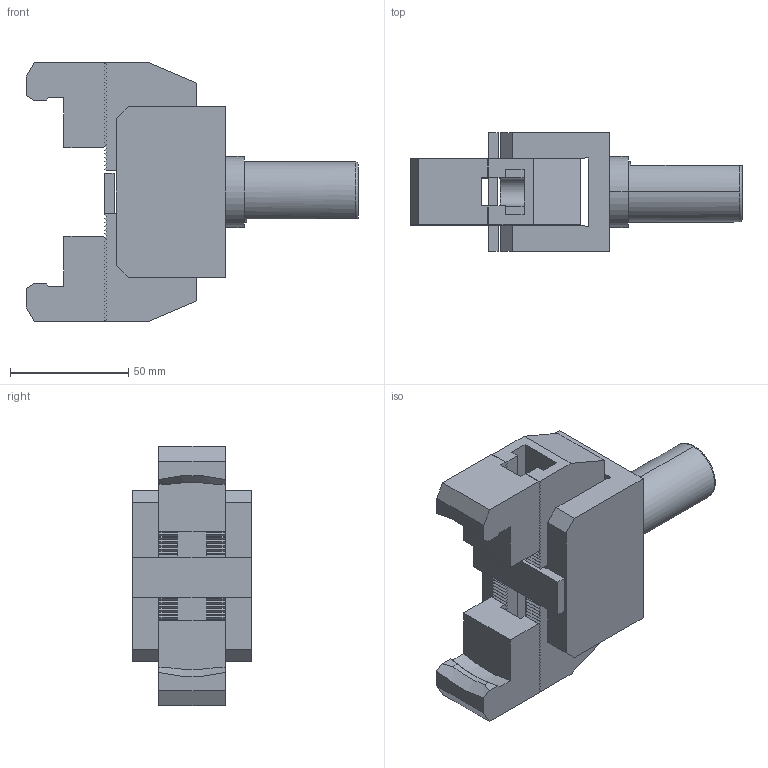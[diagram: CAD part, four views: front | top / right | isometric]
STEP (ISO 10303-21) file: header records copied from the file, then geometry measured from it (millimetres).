
FILE_DESCRIPTION (( 'STEP AP203' ), '1' );
FILE_NAME ('05-0584 LONG JAWS.STEP', '2024-02-16T21:19:52', ( '' ), ( '' ), 'SwSTEP 2.0', 'SolidWorks 2022', '' );
FILE_SCHEMA (( 'CONFIG_CONTROL_DESIGN' ));
Length unit declared in the file: inch
Products named in the file (7): BP 25.4C_5; BP 25.4C; 05-0584 LONG JAWS; BP 25.4C_2; BP 25.4C_4; BP 25.4C_3; BP 25.4C_6
Assembly tree (6 placements, depth 2):
  05-0584 LONG JAWS
    BP 25.4C_5
    BP 25.4C_3
    BP 25.4C_6
    BP 25.4C_2
    BP 25.4C
    BP 25.4C_4
Bounding box: 140.2 x 50 x 109.5 mm (x, y, z)
Volume: 222932.6 mm3; surface area: 60180.8 mm2
Topology: 6 solids, 6 shells, 523 faces, 1519 edges, 1010 vertices
Faces by surface type: plane 504, cylinder 12, cone 5, bspline 2
Entity records: 17749 total; most frequent: CARTESIAN_POINT 3208, ORIENTED_EDGE 3038, DIRECTION 2589, EDGE_CURVE 1519, LINE 1465, VECTOR 1465, VERTEX_POINT 1010, AXIS2_PLACEMENT_3D 562
